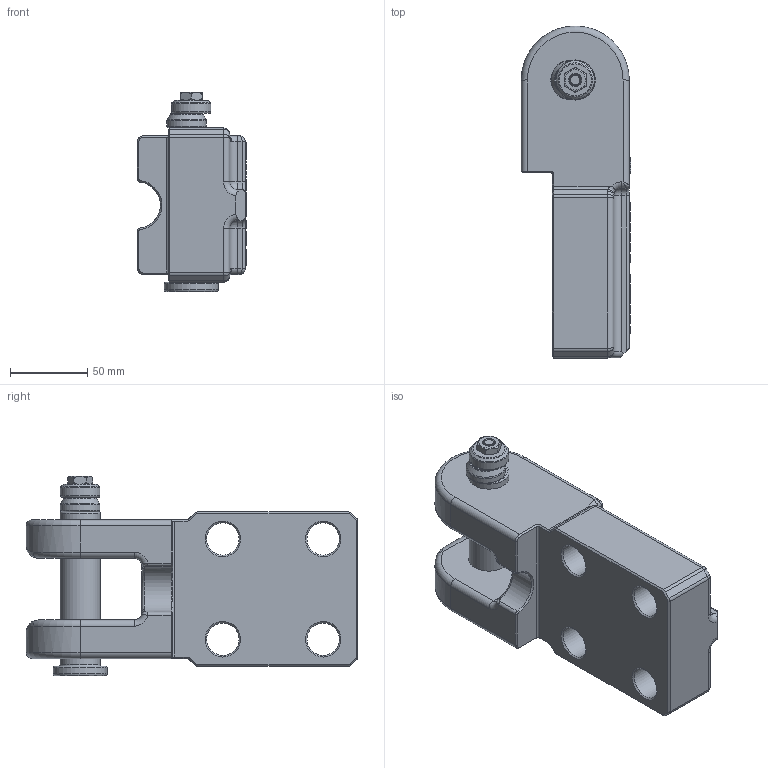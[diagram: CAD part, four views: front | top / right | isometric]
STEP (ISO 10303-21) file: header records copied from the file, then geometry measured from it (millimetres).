
FILE_DESCRIPTION(/* description */ (''),/* implementation_level */ '2;1');
FILE_NAME(/* name */ '2133.12.026.stp',/* time_stamp */ '2025-04-02T14:20:22+08:00',/* author */ (''),/* organization */ (''),/* preprocessor_version */ 'ST-DEVELOPER v16',/* originating_system */ 'SIEMENS PLM Software NX 10.0',/* authorisation */ '');
FILE_SCHEMA (('AP203_CONFIGURATION_CONTROLLED_3D_DESIGN_OF_MECHANICAL_PARTS_AND_ASSEMBLIES_MIM_LF { 1 0 10303 403 2 1 2}'));
Length unit declared in the file: millimetre
Products named in the file (1): Admi177C9AD32inf
Bounding box: 71 x 215 x 129 mm (x, y, z)
Volume: 841155.4 mm3; surface area: 101427.3 mm2
Topology: 5 solids, 5 shells, 964 faces, 2540 edges, 1647 vertices
Faces by surface type: extrusion 433, plane 339, cylinder 99, torus 32, cone 32, bspline 27, sphere 2
Full cylindrical faces by diameter (mm): 9 x1, 19 x1, 21 x4, 25.6 x2, 26 x3, 35 x1
Entity records: 40330 total; most frequent: CARTESIAN_POINT 18872, ORIENTED_EDGE 4922, DIRECTION 3062, EDGE_CURVE 2461, VERTEX_POINT 1625, B_SPLINE_CURVE_WITH_KNOTS 1543, VECTOR 1514, EDGE_LOOP 1098
